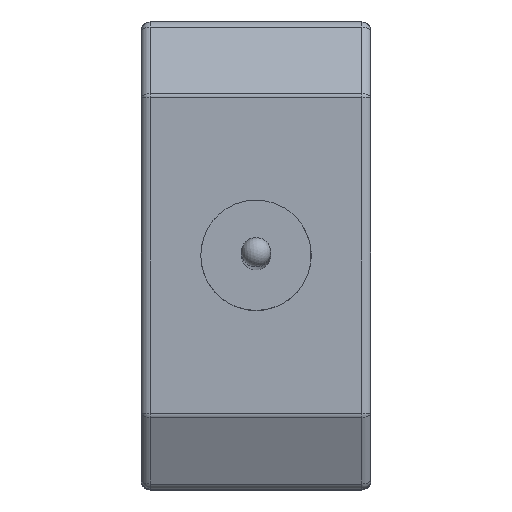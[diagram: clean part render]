
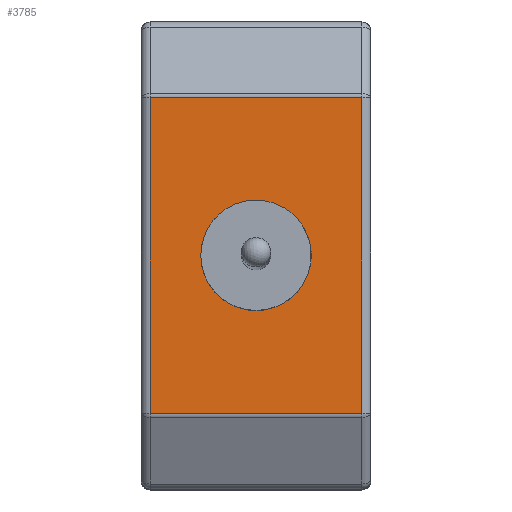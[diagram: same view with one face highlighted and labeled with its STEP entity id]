
A CAD part, top view. The second image highlights one B-rep face of the part: STEP entity #3785.
In plain terms, the highlighted planar face has unit normal (0, 0, 1).
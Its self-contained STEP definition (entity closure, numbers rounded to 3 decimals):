
#121 = CARTESIAN_POINT ( 'NONE',  ( -42.257, -29.878, -18.589 ) ) ;
#224 = EDGE_LOOP ( 'NONE', ( #4405, #3277, #2613, #3373 ) ) ;
#233 = LINE ( 'NONE', #4006, #1109 ) ;
#379 = EDGE_CURVE ( 'NONE', #4505, #4505, #1671, .T. ) ;
#423 = VECTOR ( 'NONE', #507, 1000. ) ;
#507 = DIRECTION ( 'NONE',  ( 0., -1., 0. ) ) ;
#679 = CARTESIAN_POINT ( 'NONE',  ( -30.757, -29.759, -18.589 ) ) ;
#809 = ORIENTED_EDGE ( 'NONE', *, *, #379, .F. ) ;
#824 = DIRECTION ( 'NONE',  ( 0., 0., -1. ) ) ;
#1109 = VECTOR ( 'NONE', #1702, 1000. ) ;
#1126 = LINE ( 'NONE', #679, #4749 ) ;
#1184 = FACE_BOUND ( 'NONE', #3030, .T. ) ;
#1200 = LINE ( 'NONE', #3068, #423 ) ;
#1257 = EDGE_CURVE ( 'NONE', #1520, #2773, #4399, .T. ) ;
#1520 = VERTEX_POINT ( 'NONE', #3158 ) ;
#1616 = CARTESIAN_POINT ( 'NONE',  ( -30.257, -25.759, -18.589 ) ) ;
#1671 = CIRCLE ( 'NONE', #2910, 3. ) ;
#1702 = DIRECTION ( 'NONE',  ( 1., 0., 0. ) ) ;
#1864 = VERTEX_POINT ( 'NONE', #1932 ) ;
#1932 = CARTESIAN_POINT ( 'NONE',  ( -30.757, -47.041, -18.589 ) ) ;
#1988 = CARTESIAN_POINT ( 'NONE',  ( -36.507, -38.459, -18.589 ) ) ;
#2097 = CARTESIAN_POINT ( 'NONE',  ( -30.257, -29.878, -18.589 ) ) ;
#2304 = DIRECTION ( 'NONE',  ( 0., 1., 0. ) ) ;
#2613 = ORIENTED_EDGE ( 'NONE', *, *, #2658, .T. ) ;
#2658 = EDGE_CURVE ( 'NONE', #2773, #4382, #1200, .T. ) ;
#2773 = VERTEX_POINT ( 'NONE', #121 ) ;
#2882 = AXIS2_PLACEMENT_3D ( 'NONE', #1616, #824, #2304 ) ;
#2910 = AXIS2_PLACEMENT_3D ( 'NONE', #1988, #4285, #3549 ) ;
#3030 = EDGE_LOOP ( 'NONE', ( #809 ) ) ;
#3055 = PLANE ( 'NONE',  #2882 ) ;
#3068 = CARTESIAN_POINT ( 'NONE',  ( -42.257, -25.759, -18.589 ) ) ;
#3158 = CARTESIAN_POINT ( 'NONE',  ( -30.757, -29.878, -18.589 ) ) ;
#3233 = EDGE_CURVE ( 'NONE', #4382, #1864, #233, .T. ) ;
#3277 = ORIENTED_EDGE ( 'NONE', *, *, #1257, .T. ) ;
#3373 = ORIENTED_EDGE ( 'NONE', *, *, #3233, .T. ) ;
#3405 = VECTOR ( 'NONE', #4676, 1000. ) ;
#3468 = CARTESIAN_POINT ( 'NONE',  ( -36.507, -41.459, -18.589 ) ) ;
#3549 = DIRECTION ( 'NONE',  ( 0., -1., 0. ) ) ;
#3785 = ADVANCED_FACE ( 'NONE', ( #1184, #4146 ), #3055, .F. ) ;
#4006 = CARTESIAN_POINT ( 'NONE',  ( -30.257, -47.041, -18.589 ) ) ;
#4146 = FACE_OUTER_BOUND ( 'NONE', #224, .T. ) ;
#4271 = CARTESIAN_POINT ( 'NONE',  ( -42.257, -47.041, -18.589 ) ) ;
#4285 = DIRECTION ( 'NONE',  ( 0., 0., 1. ) ) ;
#4382 = VERTEX_POINT ( 'NONE', #4271 ) ;
#4399 = LINE ( 'NONE', #2097, #3405 ) ;
#4405 = ORIENTED_EDGE ( 'NONE', *, *, #4701, .T. ) ;
#4433 = DIRECTION ( 'NONE',  ( 0., 1., 0. ) ) ;
#4505 = VERTEX_POINT ( 'NONE', #3468 ) ;
#4676 = DIRECTION ( 'NONE',  ( -1., 0., 0. ) ) ;
#4701 = EDGE_CURVE ( 'NONE', #1864, #1520, #1126, .T. ) ;
#4749 = VECTOR ( 'NONE', #4433, 1000. ) ;
